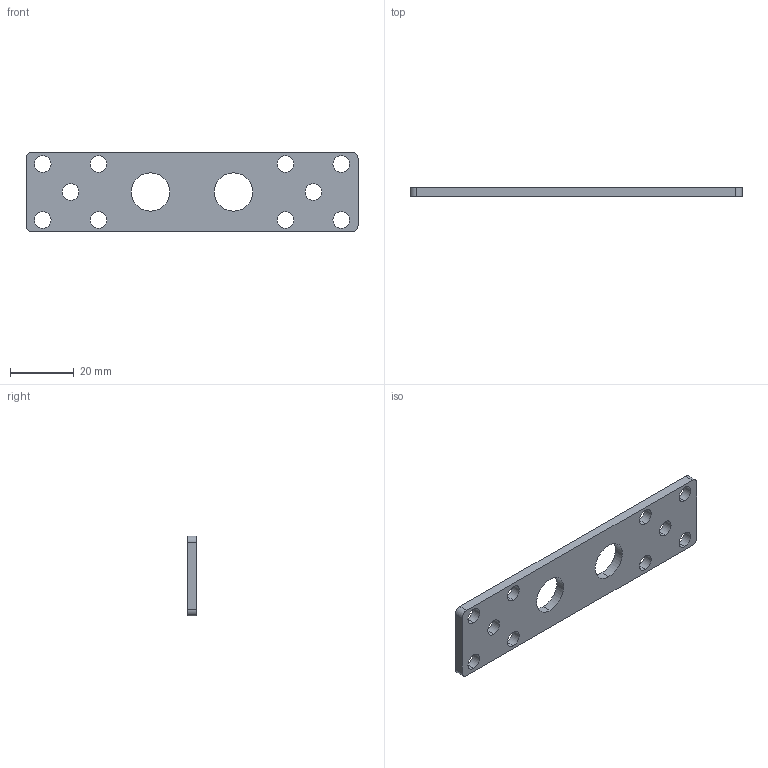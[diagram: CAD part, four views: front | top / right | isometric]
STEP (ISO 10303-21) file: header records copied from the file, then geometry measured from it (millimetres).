
FILE_DESCRIPTION (( 'STEP AP214' ), '1' );
FILE_NAME ('SMBD2-7625.STEP', '2019-10-31T07:06:01', ( '微软用户' ), ( '微软中国' ), 'SwSTEP 2.0', 'SolidWorks 2016', '' );
FILE_SCHEMA (( 'AUTOMOTIVE_DESIGN' ));
Length unit declared in the file: millimetre
Products named in the file (1): SMBD2-7625
Bounding box: 104 x 3 x 25 mm (x, y, z)
Volume: 6474 mm3; surface area: 5796 mm2
Topology: 1 solids, 1 shells, 34 faces, 96 edges, 64 vertices
Faces by surface type: cylinder 28, plane 6
Entity records: 1218 total; most frequent: DIRECTION 222, CARTESIAN_POINT 195, ORIENTED_EDGE 192, EDGE_CURVE 96, AXIS2_PLACEMENT_3D 91, VERTEX_POINT 64, EDGE_LOOP 58, CIRCLE 56
